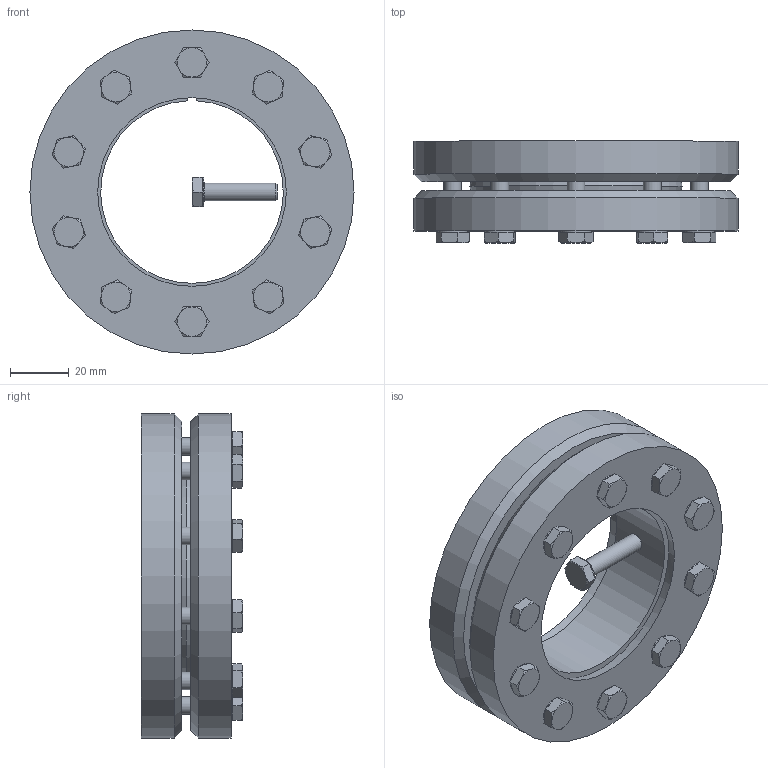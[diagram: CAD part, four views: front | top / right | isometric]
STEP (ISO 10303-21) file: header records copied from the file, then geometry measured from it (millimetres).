
FILE_DESCRIPTION( ( 'Unknown' ), '1' );
FILE_NAME( 'C:/Dokumente und Einstellungen/Sven/Desktop/homepage/cad - homepage/KBS19/KBS 19 - 62 x 110.stp', 'Unknown', ( 'Unknown' ), ( 'Unknown' ), 'XStep 1.0', 'Unknown', ' ' );
FILE_SCHEMA( ( 'automotive_design' ) );
Length unit declared in the file: millimetre
Products named in the file (3): Assem1; KBS 19 - 62 x 110; ISO 4017 - M6 x 25-N
Bounding box: 110 x 34.5 x 110 mm (x, y, z)
Volume: 348798.9 mm3; surface area: 96018.3 mm2
Topology: 13 solids, 13 shells, 361 faces, 844 edges, 520 vertices
Faces by surface type: plane 193, cone 89, cylinder 68, torus 11
Full cylindrical faces by diameter (mm): 6 x51, 10 x11, 110 x4
Entity records: 2388 total; most frequent: CARTESIAN_POINT 363, DIRECTION 354, ORIENTED_EDGE 268, AXIS2_PLACEMENT_3D 156, EDGE_LOOP 143, EDGE_CURVE 134, VERTEX_POINT 101, FACE_OUTER_BOUND 93
